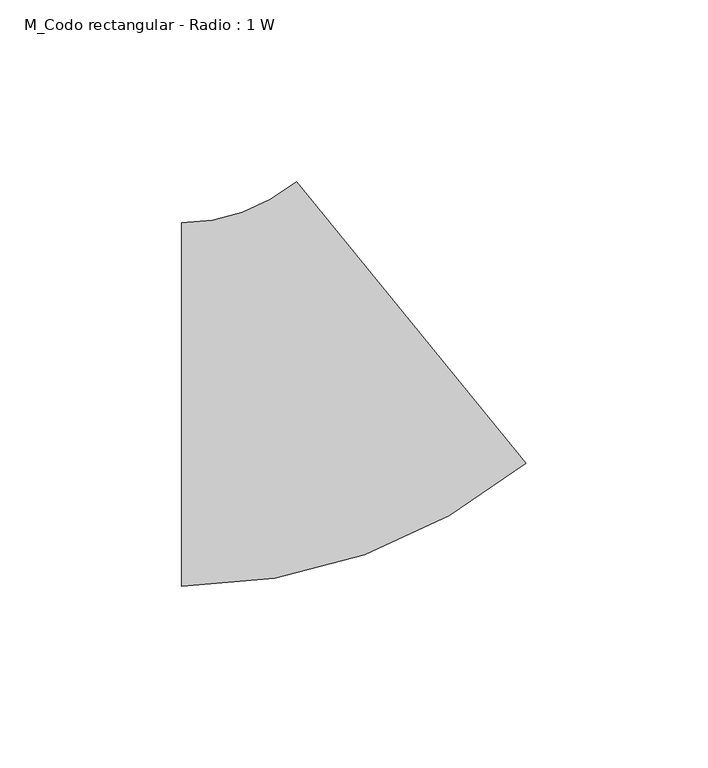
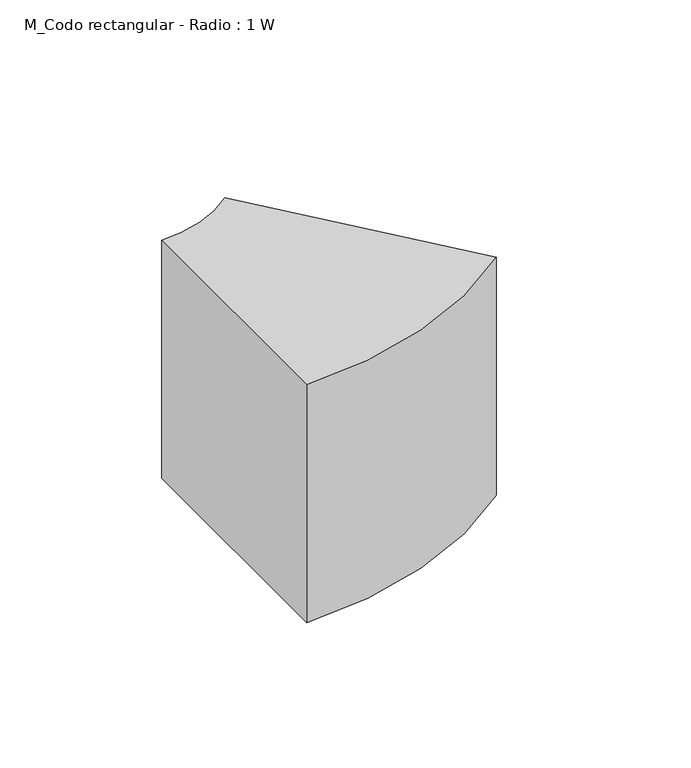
"""IFC4 building model written with IfcOpenShell, lengths in millimetres: duct fitting geometry, M_Codo rectangular - Radio : 1 W."""

from ifc_helpers import new_model, si_unit, point, frame, frame_2d, origin, place, context, project, spatial, polyline, circle_curve, trimmed, segment, composite_curve, outline, extrude, source, transform, mapped, element, save


def m_codo_rectangular_radio_1_w_b484573b(model_context):
    return source(origin(), model_context, "Body", "SweptSolid", [
        extrude(outline(composite_curve([segment(trimmed(circle_curve(frame_2d((-35.6151815, 100.0)), 150.0), [point((59.2032082, -16.2302584))], [point((-35.6151815, -50.0))], False, "CARTESIAN"), True, "CONTINUOUS"), segment(polyline([(-35.6151815, -50.0), (-35.6151815, 50.0)]), True, "CONTINUOUS"), segment(trimmed(circle_curve(frame_2d((-35.6151815, 100.0)), 50.0), [point((-35.6151815, 50.0))], [point((-4.0090516, 61.2565805))], True, "CARTESIAN"), True, "CONTINUOUS"), segment(polyline([(-4.0090516, 61.2565805), (59.2032082, -16.2302584)]), True, "CONTINUOUS")], self_intersect=False)), frame((0.0, 0.0, -50.0), z_axis=(0.0, 0.0, 1.0), x_axis=(1.0, 0.0, 0.0)), (0.0, 0.0, 1.0), 100.0),
    ])


if __name__ == "__main__":
    model = new_model("IFC4")
    model_context = context("Model", 3, world=origin())
    ifc_project = project(units=[si_unit("LENGTHUNIT", "METRE", prefix="MILLI")], contexts=[model_context])
    site = spatial("IfcSite", under=ifc_project)
    building = spatial("IfcBuilding", under=site)
    placement = place(None, origin())
    m_codo_rectangular_radio_1_w_shape = m_codo_rectangular_radio_1_w_b484573b(model_context)
    element("IfcDuctFitting", 1, ObjectType="M_Codo rectangular - Radio : 1 W", at=placement, inside=building, context=model_context, shape_type="MappedRepresentation", body=[
        mapped(m_codo_rectangular_radio_1_w_shape, transform((0.0, 0.0, 0.0), x_axis=(1.0, 0.0, 0.0), y_axis=(0.0, 1.0, 0.0), z_axis=(0.0, 0.0, 1.0))),
    ])
    save(model, "model.ifc")
